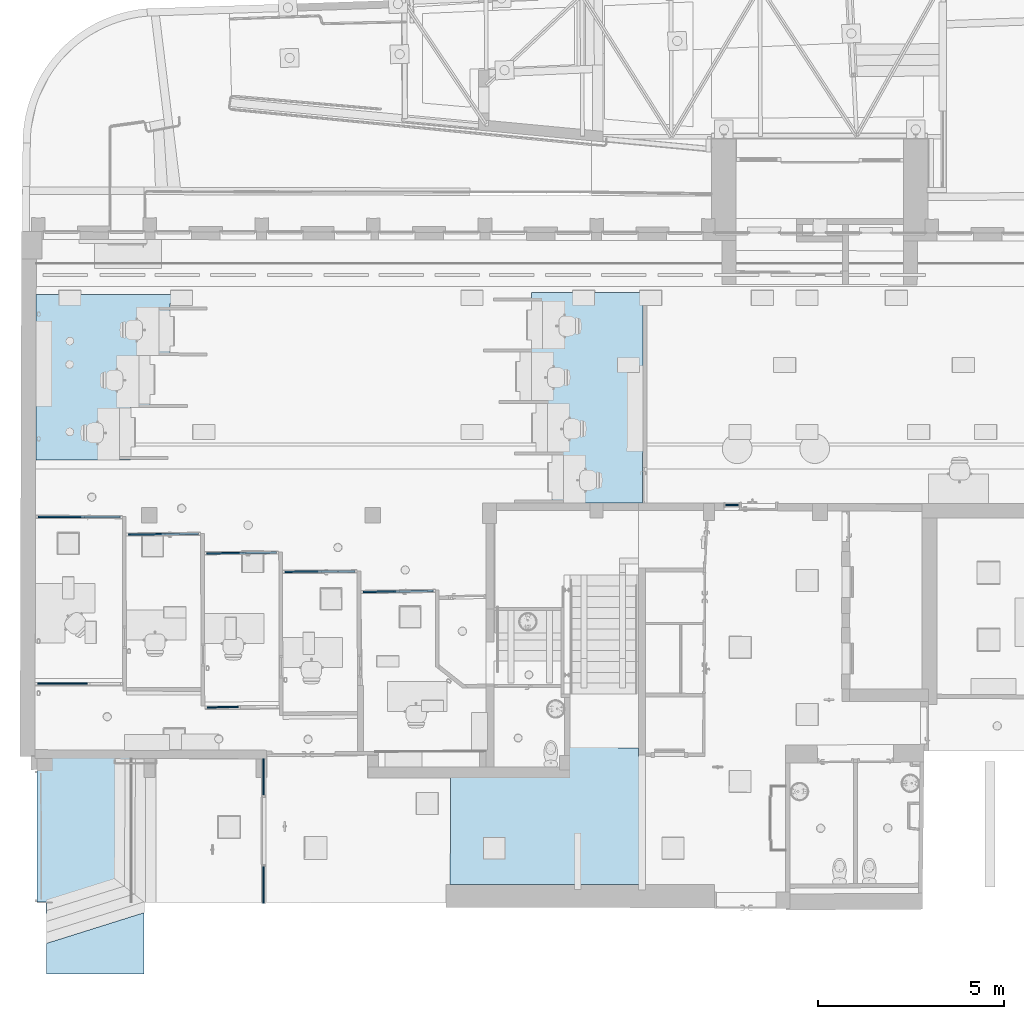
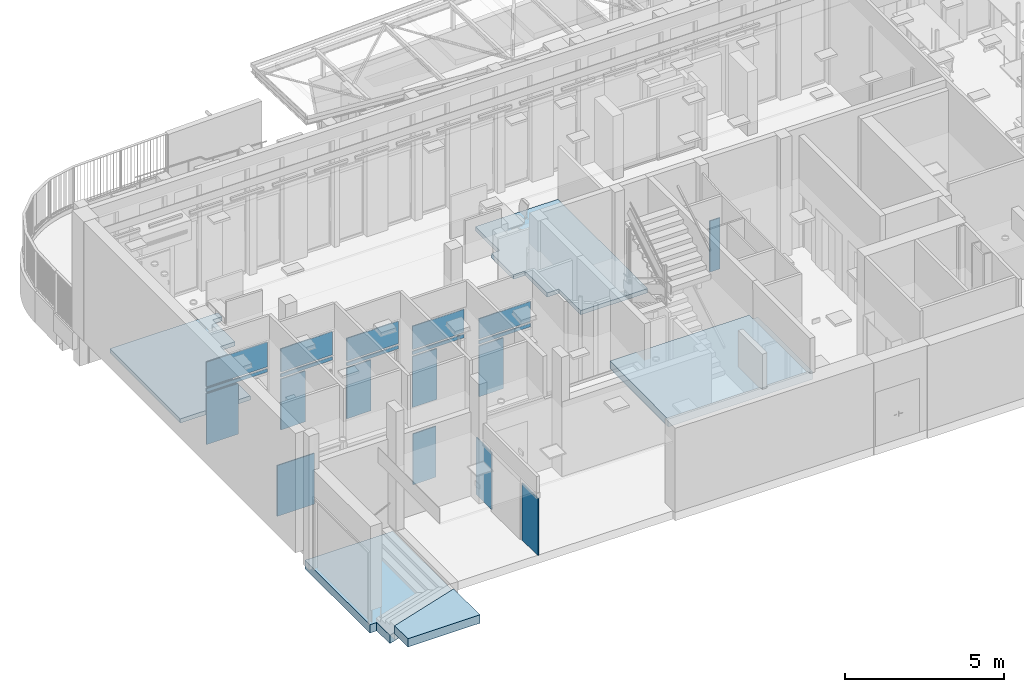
# One storey, part 21 of 128: 20 plates, 5 slabs, 9 elements without a shape of their own.
"""IFC2X3 building model written with IfcOpenShell, lengths in metres."""

from ifc_helpers import new_model, entity, si_unit, converted_unit, derived_unit, direction, frame, frame_2d, origin, origin_2d_with_axis, place, context, subcontext, project, spatial, polyline, rectangle, outline, extrude, source, transform, mapped, material, layer, layer_set, layer_usage, type_object, type_shapes, element, aggregate, save


model = new_model("IFC2X3")

# Units and contexts
model_context = context("Model", 3, precision=1e-05, world=origin(), true_north=direction((6.123031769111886e-17, 1.0)))
body_context = subcontext(model_context, "Body", "Model", "MODEL_VIEW")
ifc_project = project(units=[si_unit("LENGTHUNIT", "METRE"), si_unit("AREAUNIT", "SQUARE_METRE"), converted_unit("PLANEANGLEUNIT", "DEGREE", entity("IfcPlaneAngleMeasure", 0.017453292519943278), si_unit("PLANEANGLEUNIT", "RADIAN"), dimensions=[0, 0, 0, 0, 0, 0, 0]), derived_unit("THERMALTRANSMITTANCEUNIT", [(si_unit("MASSUNIT", "GRAM", prefix="KILO"), 1), (si_unit("THERMODYNAMICTEMPERATUREUNIT", "KELVIN"), -1), (si_unit("TIMEUNIT", "SECOND"), -3)])], contexts=[model_context])

# Site, building, storey
site_placement = place(None, origin())
site = spatial("IfcSite", under=ifc_project, at=site_placement, Name="Default", CompositionType="ELEMENT")
building_placement = place(site_placement, origin())
building = spatial("IfcBuilding", under=site, at=building_placement, CompositionType="ELEMENT")
storey_placement = place(building_placement, origin())
storey = spatial("IfcBuildingStorey", under=building, at=storey_placement, Name="00_RDC CAF", CompositionType="ELEMENT", Elevation=2.4982504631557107e-13)

# Slabs
ifc_material_1 = material(Name="STR - Beton")
ifc_layer_1 = layer(ifc_material_1, 0.32)
ifc_layer_set_1 = layer_set([ifc_layer_1], Name="Sol:S_Beton_Bac acier_200+120 mm Variable")
ifc_layer_usage_1 = layer_usage(ifc_layer_set_1, "AXIS3", "POSITIVE", 0.0)
slab_type_1 = type_object("IfcSlabType", Name="Sol:S_Beton_Bac acier_200+120 mm Variable", PredefinedType="FLOOR", material=ifc_layer_set_1)
slab_1_placement = place(storey_placement, origin())
element("IfcSlab", 1, at=slab_1_placement, inside=storey, type_object=slab_type_1, material=ifc_layer_usage_1, Name="Sol:S_Beton_Bac acier_200+120 mm Variable", ObjectType="Sol:S_Beton_Bac acier_200+120 mm Variable", PredefinedType="FLOOR", context=body_context, shape_type="SweptSolid", body=[
    extrude(outline(polyline([(-3.032867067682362, -1.80716487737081), (1.059584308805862, -1.80716487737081), (1.0586371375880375, -1.428793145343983), (1.862921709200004, 1.1300603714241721), (1.046402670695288, 1.140060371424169), (1.0455290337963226, 1.3831467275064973), (-3.0402077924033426, 1.3898554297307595), (-3.032867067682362, -1.80716487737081)])), frame((8.102068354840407, 127.21334363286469, -0.55), z_axis=(0.0, 0.0, -1.0), x_axis=(0.0, -1.0, 0.0)), (0.0, 0.0, 1.0), 0.32),
])
ifc_layer_usage_2 = layer_usage(ifc_layer_set_1, "AXIS3", "POSITIVE", 0.0)
slab_2_placement = place(storey_placement, origin())
element("IfcSlab", 2, at=slab_2_placement, inside=storey, type_object=slab_type_1, material=ifc_layer_usage_2, Name="Sol:S_Beton_Bac acier_200+120 mm Variable", ObjectType="Sol:S_Beton_Bac acier_200+120 mm Variable", PredefinedType="FLOOR", context=body_context, shape_type="SweptSolid", body=[
    extrude(outline(polyline([(-0.6180522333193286, -1.3094472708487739), (0.20667750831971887, -1.3094472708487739), (1.0294269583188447, 1.3081527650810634), (-0.6180522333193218, 1.3107417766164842), (-0.6180522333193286, -1.3094472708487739)])), frame((8.281455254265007, 124.84499319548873, 0.0), z_axis=(0.0, 0.0, -1.0), x_axis=(0.0, 1.0, 0.0)), (0.0, 0.0, 1.0), 0.32),
])

# Curtain wall, plate
curtain_wall_type_1 = type_object("IfcCurtainWallType", Name="Mur-rideau:M.Ri_Vitre_40mm_Montant_70X90mm", PredefinedType="NOTDEFINED")
curtain_wall_1_placement = place(storey_placement, origin())
curtain_wall_1 = element("IfcCurtainWall", 3, at=curtain_wall_1_placement, inside=storey, type_object=curtain_wall_type_1, Name="Mur-rideau:M.Ri_Vitre_40mm_Montant_70X90mm", ObjectType="Mur-rideau:M.Ri_Vitre_40mm_Montant_70X90mm")
ifc_material_2 = material(Name="ARC - M.In - Verre")
plate_type_1 = type_object("IfcPlateType", Name="Panneau système:M.Ri.P_Int_Vitre_40mm", PredefinedType="CURTAIN_PANEL", material=ifc_material_2)
shared_shape_1 = source(origin(), body_context, "Body", "SweptSolid", [
    extrude(rectangle(XDim=0.04, YDim=0.8907223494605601, at=frame_2d((0.0, -2.7755575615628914e-17), x_axis=(1.0, 0.0))), frame((0.0, 0.0, 0.0), z_axis=(0.0, 0.0, 1.0), x_axis=(0.0, 1.0, 0.0)), (0.0, 0.0, 1.0), 1.9499999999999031),
])
type_shapes(plate_type_1, [shared_shape_1])
plate_1_placement = place(curtain_wall_1_placement, frame((9.615066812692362, 136.03841718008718, 0.08999999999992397), z_axis=(0.0, 0.0, 1.0), x_axis=(0.9999489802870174, 0.010101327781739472, 0.0)))
plate_1 = element("IfcPlate", 4, at=plate_1_placement, type_object=plate_type_1, material=ifc_material_2, Name="Panneau système:M.Ri.P_Int_Vitre_40mm", ObjectType="Panneau système:M.Ri.P_Int_Vitre_40mm", context=body_context, shape_type="MappedRepresentation", body=[
    mapped(shared_shape_1, transform((0.0, 0.0, 0.0), scale=1.0)),
])

curtain_wall_2_placement = place(storey_placement, origin())
curtain_wall_2 = element("IfcCurtainWall", 5, at=curtain_wall_2_placement, inside=storey, type_object=curtain_wall_type_1, Name="Mur-rideau:M.Ri_Vitre_40mm_Montant_70X90mm", ObjectType="Mur-rideau:M.Ri_Vitre_40mm_Montant_70X90mm")
plate_2_placement = place(curtain_wall_2_placement, frame((13.817846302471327, 135.03508446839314, 0.08999999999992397), z_axis=(0.0, 0.0, 1.0), x_axis=(0.9999841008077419, 0.005638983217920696, 0.0)))
plate_2 = element("IfcPlate", 6, at=plate_2_placement, type_object=plate_type_1, material=ifc_material_2, Name="Panneau système:M.Ri.P_Int_Vitre_40mm", ObjectType="Panneau système:M.Ri.P_Int_Vitre_40mm", context=body_context, shape_type="MappedRepresentation", body=[
    mapped(shared_shape_1, transform((0.0, 0.0, 0.0), scale=1.0)),
])

# Plate
ifc_material_3 = material(Name="ARC - M.In - Blanc")
plate_type_2 = type_object("IfcPlateType", Name="Panneau système:M.Ri.P_Int_Plein_40mm", PredefinedType="CURTAIN_PANEL", material=ifc_material_3)
shared_shape_2 = source(origin(), body_context, "Body", "SweptSolid", [
    extrude(rectangle(XDim=0.13000000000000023, YDim=1.881540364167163, at=frame_2d((0.0, 0.0016826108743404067), x_axis=(1.0, 0.0))), frame((-0.001682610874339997, -0.02, 0.06499999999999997), z_axis=(0.0, 1.0, 0.0), x_axis=(0.0, 0.0, 1.0)), (0.0, 0.0, 1.0), 0.04),
])
type_shapes(plate_type_2, [shared_shape_2])
plate_3_placement = place(curtain_wall_1_placement, frame((10.1104505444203, 136.04342146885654, 2.109999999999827), z_axis=(0.0, 0.0, 1.0), x_axis=(0.9999489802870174, 0.010101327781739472, 0.0)))
plate_3 = element("IfcPlate", 7, at=plate_3_placement, type_object=plate_type_2, material=ifc_material_3, Name="Panneau système:M.Ri.P_Int_Plein_40mm", ObjectType="Panneau système:M.Ri.P_Int_Plein_40mm", context=body_context, shape_type="MappedRepresentation", body=[
    mapped(shared_shape_2, transform((0.0, 0.0, 0.0), scale=1.0)),
])

plate_type_3 = type_object("IfcPlateType", Name="Panneau système:M.Ri.P_Int_Vitre_40mm", PredefinedType="CURTAIN_PANEL", material=ifc_material_2)
shared_shape_3 = source(origin(), body_context, "Body", "SweptSolid", [
    extrude(rectangle(XDim=0.894999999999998, YDim=1.881540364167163, at=frame_2d((8.326672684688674e-17, 0.0016826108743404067), x_axis=(1.0, 0.0))), frame((-0.001682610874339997, -0.02, 0.44749999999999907), z_axis=(0.0, 1.0, 0.0), x_axis=(0.0, 0.0, 1.0)), (0.0, 0.0, 1.0), 0.04),
])
type_shapes(plate_type_3, [shared_shape_3])
plate_4_placement = place(curtain_wall_1_placement, frame((10.1104505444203, 136.04342146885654, 2.3099999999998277), z_axis=(0.0, 0.0, 1.0), x_axis=(0.9999489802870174, 0.010101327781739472, 0.0)))
plate_4 = element("IfcPlate", 8, at=plate_4_placement, type_object=plate_type_3, material=ifc_material_2, Name="Panneau système:M.Ri.P_Int_Vitre_40mm", ObjectType="Panneau système:M.Ri.P_Int_Vitre_40mm", context=body_context, shape_type="MappedRepresentation", body=[
    mapped(shared_shape_3, transform((0.0, 0.0, 0.0), scale=1.0)),
])

aggregate(curtain_wall_1, [plate_1, plate_3, plate_4])

# Curtain wall, plates
curtain_wall_3_placement = place(storey_placement, origin())
curtain_wall_3 = element("IfcCurtainWall", 9, at=curtain_wall_3_placement, inside=storey, type_object=curtain_wall_type_1, Name="Mur-rideau:M.Ri_Vitre_40mm_Montant_70X90mm", ObjectType="Mur-rideau:M.Ri_Vitre_40mm_Montant_70X90mm")
plate_type_4 = type_object("IfcPlateType", Name="Panneau système:M.Ri.P_Int_Vitre_40mm", PredefinedType="CURTAIN_PANEL", material=ifc_material_2)
shared_shape_4 = source(origin(), body_context, "Body", "SweptSolid", [
    extrude(rectangle(XDim=0.04, YDim=0.8866441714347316, at=frame_2d((0.0, -2.7755575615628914e-17), x_axis=(1.0, 0.0))), frame((0.0, 0.0, 0.0), z_axis=(0.0, 0.0, 1.0), x_axis=(0.0, 1.0, 0.0)), (0.0, 0.0, 1.0), 1.9499999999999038),
])
type_shapes(plate_type_4, [shared_shape_4])
plate_5_placement = place(curtain_wall_3_placement, frame((11.71590728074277, 135.5313912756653, 0.08999999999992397), z_axis=(0.0, 0.0, 1.0), x_axis=(0.9999489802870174, 0.010101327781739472, 0.0)))
plate_5 = element("IfcPlate", 10, at=plate_5_placement, type_object=plate_type_4, material=ifc_material_2, Name="Panneau système:M.Ri.P_Int_Vitre_40mm", ObjectType="Panneau système:M.Ri.P_Int_Vitre_40mm", context=body_context, shape_type="MappedRepresentation", body=[
    mapped(shared_shape_4, transform((0.0, 0.0, 0.0), scale=1.0)),
])
plate_type_5 = type_object("IfcPlateType", Name="Panneau système:M.Ri.P_Int_Plein_40mm", PredefinedType="CURTAIN_PANEL", material=ifc_material_3)
shared_shape_5 = source(origin(), body_context, "Body", "SweptSolid", [
    extrude(rectangle(XDim=0.12999999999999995, YDim=1.877456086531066, at=frame_2d((-7.632783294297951e-17, 0.002361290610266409), x_axis=(1.0, 0.0))), frame((-0.0023612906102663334, -0.020000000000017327, 0.06500000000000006), z_axis=(0.0, 1.0, 0.0), x_axis=(0.0, 0.0, 1.0)), (0.0, 0.0, 1.0), 0.04),
])
type_shapes(plate_type_5, [shared_shape_5])
plate_6_placement = place(curtain_wall_3_placement, frame((12.211287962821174, 135.53639553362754, 2.1099999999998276), z_axis=(0.0, 0.0, 1.0), x_axis=(0.9999489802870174, 0.010101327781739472, 0.0)))
plate_6 = element("IfcPlate", 11, at=plate_6_placement, type_object=plate_type_5, material=ifc_material_3, Name="Panneau système:M.Ri.P_Int_Plein_40mm", ObjectType="Panneau système:M.Ri.P_Int_Plein_40mm", context=body_context, shape_type="MappedRepresentation", body=[
    mapped(shared_shape_5, transform((0.0, 0.0, 0.0), scale=1.0)),
])
plate_type_6 = type_object("IfcPlateType", Name="Panneau système:M.Ri.P_Int_Vitre_40mm", PredefinedType="CURTAIN_PANEL", material=ifc_material_2)
shared_shape_6 = source(origin(), body_context, "Body", "SweptSolid", [
    extrude(rectangle(XDim=0.8649999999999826, YDim=1.877456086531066, at=frame_2d((5.551115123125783e-17, 0.002361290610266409), x_axis=(1.0, 0.0))), frame((-0.0023612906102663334, -0.020000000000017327, 0.43249999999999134), z_axis=(0.0, 1.0, 0.0), x_axis=(0.0, 0.0, 1.0)), (0.0, 0.0, 1.0), 0.04),
])
type_shapes(plate_type_6, [shared_shape_6])
plate_7_placement = place(curtain_wall_3_placement, frame((12.211287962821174, 135.53639553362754, 2.3099999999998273), z_axis=(0.0, 0.0, 1.0), x_axis=(0.9999489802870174, 0.010101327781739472, 0.0)))
plate_7 = element("IfcPlate", 12, at=plate_7_placement, type_object=plate_type_6, material=ifc_material_2, Name="Panneau système:M.Ri.P_Int_Vitre_40mm", ObjectType="Panneau système:M.Ri.P_Int_Vitre_40mm", context=body_context, shape_type="MappedRepresentation", body=[
    mapped(shared_shape_6, transform((0.0, 0.0, 0.0), scale=1.0)),
])
aggregate(curtain_wall_3, [plate_5, plate_6, plate_7])

curtain_wall_4_placement = place(storey_placement, origin())
curtain_wall_4 = element("IfcCurtainWall", 13, at=curtain_wall_4_placement, inside=storey, type_object=curtain_wall_type_1, Name="Mur-rideau:M.Ri_Vitre_40mm_Montant_70X90mm", ObjectType="Mur-rideau:M.Ri_Vitre_40mm_Montant_70X90mm")
plate_type_7 = type_object("IfcPlateType", Name="Panneau système:M.Ri.P_Int_Vitre_40mm", PredefinedType="CURTAIN_PANEL", material=ifc_material_2)
shared_shape_7 = source(origin(), body_context, "Body", "SweptSolid", [
    extrude(rectangle(XDim=0.04, YDim=1.1491819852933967, at=frame_2d((0.0, 1.1102230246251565e-16), x_axis=(1.0, 0.0))), frame((0.0, 0.0, 0.0), z_axis=(0.0, 0.0, 1.0), x_axis=(0.0, 1.0, 0.0)), (0.0, 0.0, 1.0), 1.9499999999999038),
])
type_shapes(plate_type_7, [shared_shape_7])
plate_8_placement = place(curtain_wall_4_placement, frame((7.324774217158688, 136.50737839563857, 0.08999999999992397)))
plate_8 = element("IfcPlate", 14, at=plate_8_placement, type_object=plate_type_7, material=ifc_material_2, Name="Panneau système:M.Ri.P_Int_Vitre_40mm", ObjectType="Panneau système:M.Ri.P_Int_Vitre_40mm", context=body_context, shape_type="MappedRepresentation", body=[
    mapped(shared_shape_7, transform((0.0, 0.0, 0.0), scale=1.0)),
])
plate_type_8 = type_object("IfcPlateType", Name="Panneau système:M.Ri.P_Int_Plein_40mm", PredefinedType="CURTAIN_PANEL", material=ifc_material_3)
shared_shape_8 = source(origin(), body_context, "Body", "SweptSolid", [
    extrude(rectangle(XDim=0.12999999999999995, YDim=2.1982767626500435, at=frame_2d((0.0, -0.03168120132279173), x_axis=(1.0, 0.0))), frame((0.031681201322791, -0.02, 0.06500000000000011), z_axis=(0.0, 1.0, 0.0), x_axis=(0.0, 0.0, 1.0)), (0.0, 0.0, 1.0), 0.04),
])
type_shapes(plate_type_8, [shared_shape_8])
plate_9_placement = place(curtain_wall_4_placement, frame((7.849318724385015, 136.50563974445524, 2.1099999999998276)))
plate_9 = element("IfcPlate", 15, at=plate_9_placement, type_object=plate_type_8, material=ifc_material_3, Name="Panneau système:M.Ri.P_Int_Plein_40mm", ObjectType="Panneau système:M.Ri.P_Int_Plein_40mm", context=body_context, shape_type="MappedRepresentation", body=[
    mapped(shared_shape_8, transform((0.0, 0.0, 0.0), scale=1.0)),
])
plate_type_9 = type_object("IfcPlateType", Name="Panneau système:M.Ri.P_Int_Vitre_40mm", PredefinedType="CURTAIN_PANEL", material=ifc_material_2)
shared_shape_9 = source(origin(), body_context, "Body", "SweptSolid", [
    extrude(rectangle(XDim=0.9500000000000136, YDim=2.1982767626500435, at=frame_2d((5.551115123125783e-17, -0.03168120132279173), x_axis=(1.0, 0.0))), frame((0.031681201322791, -0.02, 0.47500000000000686), z_axis=(0.0, 1.0, 0.0), x_axis=(0.0, 0.0, 1.0)), (0.0, 0.0, 1.0), 0.04),
])
type_shapes(plate_type_9, [shared_shape_9])
plate_10_placement = place(curtain_wall_4_placement, frame((7.849318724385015, 136.50563974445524, 2.3099999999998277)))
plate_10 = element("IfcPlate", 16, at=plate_10_placement, type_object=plate_type_9, material=ifc_material_2, Name="Panneau système:M.Ri.P_Int_Vitre_40mm", ObjectType="Panneau système:M.Ri.P_Int_Vitre_40mm", context=body_context, shape_type="MappedRepresentation", body=[
    mapped(shared_shape_9, transform((0.0, 0.0, 0.0), scale=1.0)),
])
aggregate(curtain_wall_4, [plate_8, plate_9, plate_10])

# Plate
plate_type_10 = type_object("IfcPlateType", Name="Panneau système:M.Ri.P_Int_Plein_40mm", PredefinedType="CURTAIN_PANEL", material=ifc_material_3)
shared_shape_10 = source(origin(), body_context, "Body", "SweptSolid", [
    extrude(rectangle(XDim=0.13000000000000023, YDim=1.8813017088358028, at=frame_2d((0.0, 0.0016428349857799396), x_axis=(1.0, 0.0))), frame((-0.0016428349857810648, -0.02, 0.06499999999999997), z_axis=(0.0, 1.0, 0.0), x_axis=(0.0, 0.0, 1.0)), (0.0, 0.0, 1.0), 0.04),
])
type_shapes(plate_type_10, [shared_shape_10])
plate_11_placement = place(curtain_wall_2_placement, frame((14.313128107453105, 135.03787739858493, 2.109999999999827), z_axis=(0.0, 0.0, 1.0), x_axis=(0.9999841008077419, 0.005638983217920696, 0.0)))
plate_11 = element("IfcPlate", 17, at=plate_11_placement, type_object=plate_type_10, material=ifc_material_3, Name="Panneau système:M.Ri.P_Int_Plein_40mm", ObjectType="Panneau système:M.Ri.P_Int_Plein_40mm", context=body_context, shape_type="MappedRepresentation", body=[
    mapped(shared_shape_10, transform((0.0, 0.0, 0.0), scale=1.0)),
])

plate_type_11 = type_object("IfcPlateType", Name="Panneau système:M.Ri.P_Int_Vitre_40mm", PredefinedType="CURTAIN_PANEL", material=ifc_material_2)
shared_shape_11 = source(origin(), body_context, "Body", "SweptSolid", [
    extrude(rectangle(XDim=0.894999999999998, YDim=1.8813017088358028, at=frame_2d((8.326672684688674e-17, 0.0016428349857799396), x_axis=(1.0, 0.0))), frame((-0.0016428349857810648, -0.02, 0.44749999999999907), z_axis=(0.0, 1.0, 0.0), x_axis=(0.0, 0.0, 1.0)), (0.0, 0.0, 1.0), 0.04),
])
type_shapes(plate_type_11, [shared_shape_11])
plate_12_placement = place(curtain_wall_2_placement, frame((14.313128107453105, 135.03787739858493, 2.3099999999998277), z_axis=(0.0, 0.0, 1.0), x_axis=(0.9999841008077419, 0.005638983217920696, 0.0)))
plate_12 = element("IfcPlate", 18, at=plate_12_placement, type_object=plate_type_11, material=ifc_material_2, Name="Panneau système:M.Ri.P_Int_Vitre_40mm", ObjectType="Panneau système:M.Ri.P_Int_Vitre_40mm", context=body_context, shape_type="MappedRepresentation", body=[
    mapped(shared_shape_11, transform((0.0, 0.0, 0.0), scale=1.0)),
])

aggregate(curtain_wall_2, [plate_2, plate_11, plate_12])

# Curtain wall, plates
curtain_wall_5_placement = place(storey_placement, origin())
curtain_wall_5 = element("IfcCurtainWall", 19, at=curtain_wall_5_placement, inside=storey, type_object=curtain_wall_type_1, Name="Mur-rideau:M.Ri_Vitre_40mm_Montant_70X90mm", ObjectType="Mur-rideau:M.Ri_Vitre_40mm_Montant_70X90mm")
plate_type_12 = type_object("IfcPlateType", Name="Panneau système:M.Ri.P_Int_Vitre_40mm", PredefinedType="CURTAIN_PANEL", material=ifc_material_2)
shared_shape_12 = source(origin(), body_context, "Body", "SweptSolid", [
    extrude(rectangle(XDim=0.04, YDim=0.8884050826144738, at=frame_2d((0.0, -2.7755575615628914e-17), x_axis=(1.0, 0.0))), frame((0.0, 0.0, 0.0), z_axis=(0.0, 0.0, 1.0), x_axis=(0.0, 1.0, 0.0)), (0.0, 0.0, 1.0), 1.9499999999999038),
])
type_shapes(plate_type_12, [shared_shape_12])
plate_13_placement = place(curtain_wall_5_placement, frame((15.919359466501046, 134.49780115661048, 0.08999999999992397), z_axis=(0.0, 0.0, 1.0), x_axis=(0.9998908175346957, 0.014776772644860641, 0.0)))
plate_13 = element("IfcPlate", 20, at=plate_13_placement, type_object=plate_type_12, material=ifc_material_2, Name="Panneau système:M.Ri.P_Int_Vitre_40mm", ObjectType="Panneau système:M.Ri.P_Int_Vitre_40mm", context=body_context, shape_type="MappedRepresentation", body=[
    mapped(shared_shape_12, transform((0.0, 0.0, 0.0), scale=1.0)),
])
plate_type_13 = type_object("IfcPlateType", Name="Panneau système:M.Ri.P_Int_Plein_40mm", PredefinedType="CURTAIN_PANEL", material=ifc_material_3)
shared_shape_13 = source(origin(), body_context, "Body", "SweptSolid", [
    extrude(rectangle(XDim=0.1299999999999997, YDim=1.8839899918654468, at=frame_2d((0.0, 0.0028633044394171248), x_axis=(1.0, 0.0))), frame((-0.0028633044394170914, -0.02, 0.06499999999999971), z_axis=(0.0, 1.0, 0.0), x_axis=(0.0, 0.0, 1.0)), (0.0, 0.0, 1.0), 0.04),
])
type_shapes(plate_type_13, [shared_shape_13])
plate_14_placement = place(curtain_wall_5_placement, frame((16.417097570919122, 134.5051569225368, 2.109999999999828), z_axis=(0.0, 0.0, 1.0), x_axis=(0.9998908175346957, 0.014776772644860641, 0.0)))
plate_14 = element("IfcPlate", 21, at=plate_14_placement, type_object=plate_type_13, material=ifc_material_3, Name="Panneau système:M.Ri.P_Int_Plein_40mm", ObjectType="Panneau système:M.Ri.P_Int_Plein_40mm", context=body_context, shape_type="MappedRepresentation", body=[
    mapped(shared_shape_13, transform((0.0, 0.0, 0.0), scale=1.0)),
])
plate_type_14 = type_object("IfcPlateType", Name="Panneau système:M.Ri.P_Int_Vitre_40mm", PredefinedType="CURTAIN_PANEL", material=ifc_material_2)
shared_shape_14 = source(origin(), body_context, "Body", "SweptSolid", [
    extrude(rectangle(XDim=0.7749999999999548, YDim=1.8839899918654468, at=frame_2d((5.551115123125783e-17, 0.0028633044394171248), x_axis=(1.0, 0.0))), frame((-0.0028633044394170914, -0.02, 0.3874999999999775), z_axis=(0.0, 1.0, 0.0), x_axis=(0.0, 0.0, 1.0)), (0.0, 0.0, 1.0), 0.04),
])
type_shapes(plate_type_14, [shared_shape_14])
plate_15_placement = place(curtain_wall_5_placement, frame((16.417097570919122, 134.5051569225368, 2.3099999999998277), z_axis=(0.0, 0.0, 1.0), x_axis=(0.9998908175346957, 0.014776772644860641, 0.0)))
plate_15 = element("IfcPlate", 22, at=plate_15_placement, type_object=plate_type_14, material=ifc_material_2, Name="Panneau système:M.Ri.P_Int_Vitre_40mm", ObjectType="Panneau système:M.Ri.P_Int_Vitre_40mm", context=body_context, shape_type="MappedRepresentation", body=[
    mapped(shared_shape_14, transform((0.0, 0.0, 0.0), scale=1.0)),
])
aggregate(curtain_wall_5, [plate_13, plate_14, plate_15])

# Curtain wall, plate
curtain_wall_type_2 = type_object("IfcCurtainWallType", Name="Mur-rideau:M.Ri_Vitre_40mm_Montant_50X50mm_Avec_Décalage", PredefinedType="NOTDEFINED")
curtain_wall_6_placement = place(storey_placement, origin())
curtain_wall_6 = element("IfcCurtainWall", 23, at=curtain_wall_6_placement, inside=storey, type_object=curtain_wall_type_2, Name="Mur-rideau:M.Ri_Vitre_40mm_Montant_50X50mm_Avec_Décalage", ObjectType="Mur-rideau:M.Ri_Vitre_40mm_Montant_50X50mm_Avec_Décalage")
plate_type_15 = type_object("IfcPlateType", Name="Panneau système:M.Ri.P_Int_Vitre_40mm_Avec_Décalage", PredefinedType="CURTAIN_PANEL", material=ifc_material_2)
shared_shape_15 = source(origin(), body_context, "Body", "SweptSolid", [
    extrude(rectangle(XDim=0.039999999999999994, YDim=1.3478138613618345, at=frame_2d((8.673617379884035e-18, 0.0), x_axis=(1.0, 0.0))), frame((0.0, -0.085, 0.0), z_axis=(0.0, 0.0, 1.0), x_axis=(0.0, 1.0, 0.0)), (0.0, 0.0, 1.0), 1.9524999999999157),
])
type_shapes(plate_type_15, [shared_shape_15])
plate_16_placement = place(curtain_wall_6_placement, frame((7.4008586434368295, 132.11264719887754, 0.059999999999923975)))
plate_16 = element("IfcPlate", 24, at=plate_16_placement, type_object=plate_type_15, material=ifc_material_2, Name="Panneau système:M.Ri.P_Int_Vitre_40mm_Avec_Décalage", ObjectType="Panneau système:M.Ri.P_Int_Vitre_40mm_Avec_Décalage", context=body_context, shape_type="MappedRepresentation", body=[
    mapped(shared_shape_15, transform((0.0, 0.0, 0.0), scale=1.0)),
])
aggregate(curtain_wall_6, [plate_16])

curtain_wall_7_placement = place(storey_placement, origin())
curtain_wall_7 = element("IfcCurtainWall", 25, at=curtain_wall_7_placement, inside=storey, type_object=curtain_wall_type_2, Name="Mur-rideau:M.Ri_Vitre_40mm_Montant_50X50mm_Avec_Décalage", ObjectType="Mur-rideau:M.Ri_Vitre_40mm_Montant_50X50mm_Avec_Décalage")
plate_type_16 = type_object("IfcPlateType", Name="Panneau système:M.Ri.P_Int_Vitre_40mm_Avec_Décalage", PredefinedType="CURTAIN_PANEL", material=ifc_material_2)
shared_shape_16 = source(origin(), body_context, "Body", "SweptSolid", [
    extrude(rectangle(XDim=0.039999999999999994, YDim=0.8400011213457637, at=frame_2d((8.673617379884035e-18, -4.440892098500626e-16), x_axis=(1.0, 0.0))), frame((0.0, -0.08499999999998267, 0.0), z_axis=(0.0, 0.0, 1.0), x_axis=(0.0, 1.0, 0.0)), (0.0, 0.0, 1.0), 1.9524999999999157),
])
type_shapes(plate_type_16, [shared_shape_16])
plate_17_placement = place(curtain_wall_7_placement, frame((11.703656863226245, 131.48087896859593, 0.059999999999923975), z_axis=(0.0, 0.0, 1.0), x_axis=(0.9999522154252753, 0.009775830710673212, 0.0)))
plate_17 = element("IfcPlate", 26, at=plate_17_placement, type_object=plate_type_16, material=ifc_material_2, Name="Panneau système:M.Ri.P_Int_Vitre_40mm_Avec_Décalage", ObjectType="Panneau système:M.Ri.P_Int_Vitre_40mm_Avec_Décalage", context=body_context, shape_type="MappedRepresentation", body=[
    mapped(shared_shape_16, transform((0.0, 0.0, 0.0), scale=1.0)),
])
aggregate(curtain_wall_7, [plate_17])

# Curtain wall, plates
curtain_wall_type_3 = type_object("IfcCurtainWallType", PredefinedType="NOTDEFINED")
curtain_wall_8_placement = place(storey_placement, origin())
curtain_wall_8 = element("IfcCurtainWall", 27, at=curtain_wall_8_placement, inside=storey, type_object=curtain_wall_type_3)
plate_type_17 = type_object("IfcPlateType", Name="Panneau système:M.Ri.P_Int_Vitre_40mm", PredefinedType="CURTAIN_PANEL", material=ifc_material_2)
shared_shape_17 = source(origin(), body_context, "Body", "SweptSolid", [
    extrude(rectangle(XDim=0.04, YDim=0.9774999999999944, at=origin_2d_with_axis()), frame((0.0, 0.0, 0.0), z_axis=(0.0, 0.0, 1.0), x_axis=(0.0, 1.0, 0.0)), (0.0, 0.0, 1.0), 2.19),
])
type_shapes(plate_type_17, [shared_shape_17])
plate_18_placement = place(curtain_wall_8_placement, frame((12.806391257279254, 129.51665691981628, 0.0), z_axis=(0.0, 0.0, 1.0), x_axis=(0.0, -1.0, 0.0)))
plate_18 = element("IfcPlate", 28, at=plate_18_placement, type_object=plate_type_17, material=ifc_material_2, Name="Panneau système:M.Ri.P_Int_Vitre_40mm", ObjectType="Panneau système:M.Ri.P_Int_Vitre_40mm", context=body_context, shape_type="MappedRepresentation", body=[
    mapped(shared_shape_17, transform((0.0, 0.0, 0.0), scale=1.0)),
])
plate_type_18 = type_object("IfcPlateType", Name="Panneau système:M.Ri.P_Int_Vitre_40mm", PredefinedType="CURTAIN_PANEL", material=ifc_material_2)
shared_shape_18 = source(origin(), body_context, "Body", "SweptSolid", [
    extrude(rectangle(XDim=0.04, YDim=0.9975000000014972, at=origin_2d_with_axis()), frame((0.0, 0.0, 0.0), z_axis=(0.0, 0.0, 1.0), x_axis=(0.0, 1.0, 0.0)), (0.0, 0.0, 1.0), 2.19),
])
type_shapes(plate_type_18, [shared_shape_18])
plate_19_placement = place(curtain_wall_8_placement, frame((12.806391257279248, 126.62525691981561, 0.0), z_axis=(0.0, 0.0, 1.0), x_axis=(0.0, -1.0, 0.0)))
plate_19 = element("IfcPlate", 29, at=plate_19_placement, type_object=plate_type_18, material=ifc_material_2, Name="Panneau système:M.Ri.P_Int_Vitre_40mm", ObjectType="Panneau système:M.Ri.P_Int_Vitre_40mm", context=body_context, shape_type="MappedRepresentation", body=[
    mapped(shared_shape_18, transform((0.0, 0.0, 0.0), scale=1.0)),
])
aggregate(curtain_wall_8, [plate_18, plate_19])

# Curtain wall, plate
curtain_wall_type_4 = type_object("IfcCurtainWallType", Name="Mur-rideau:M.Ri._Vitre_40mm_Montant_115mm", PredefinedType="NOTDEFINED")
curtain_wall_9_placement = place(storey_placement, origin())
curtain_wall_9 = element("IfcCurtainWall", 30, at=curtain_wall_9_placement, inside=storey, type_object=curtain_wall_type_4, Name="Mur-rideau:M.Ri._Vitre_40mm_Montant_115mm", ObjectType="Mur-rideau:M.Ri._Vitre_40mm_Montant_115mm")
plate_type_19 = type_object("IfcPlateType", Name="Panneau système:M.Ri.P_Int_Vitre_40mm", PredefinedType="CURTAIN_PANEL", material=ifc_material_2)
shared_shape_19 = source(origin(), body_context, "Body", "SweptSolid", [
    extrude(rectangle(XDim=0.04, YDim=0.36260903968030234, at=frame_2d((0.0, -6.245004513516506e-16), x_axis=(1.0, 0.0))), frame((0.0, 0.0, 0.0), z_axis=(0.0, 0.0, 1.0), x_axis=(0.0, 1.0, 0.0)), (0.0, 0.0, 1.0), 1.965),
])
type_shapes(plate_type_19, [shared_shape_19])
plate_20_placement = place(curtain_wall_9_placement, frame((25.38110314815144, 136.82627246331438, 0.05499999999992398)))
plate_20 = element("IfcPlate", 31, at=plate_20_placement, type_object=plate_type_19, material=ifc_material_2, Name="Panneau système:M.Ri.P_Int_Vitre_40mm", ObjectType="Panneau système:M.Ri.P_Int_Vitre_40mm", context=body_context, shape_type="MappedRepresentation", body=[
    mapped(shared_shape_19, transform((0.0, 0.0, 0.0), scale=1.0)),
])
aggregate(curtain_wall_9, [plate_20])

# Slabs
ifc_material_4 = material(Name="ARC - Estrade")
ifc_layer_2 = layer(ifc_material_4, 0.16)
ifc_layer_set_2 = layer_set([ifc_layer_2], Name="Sol:A_Plancher_Estrade_16mm")
ifc_layer_usage_3 = layer_usage(ifc_layer_set_2, "AXIS3", "POSITIVE", 0.0)
slab_type_2 = type_object("IfcSlabType", Name="Sol:A_Plancher_Estrade_16mm", PredefinedType="FLOOR", material=ifc_layer_set_2)
slab_3_placement = place(storey_placement, origin())
element("IfcSlab", 32, at=slab_3_placement, inside=storey, type_object=slab_type_2, material=ifc_layer_usage_3, Name="Sol:A_Plancher_Estrade_16mm", ObjectType="Sol:A_Plancher_Estrade_16mm", PredefinedType="FLOOR", context=body_context, shape_type="SweptSolid", body=[
    extrude(outline(polyline([(0.090510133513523, -2.574065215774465), (2.6344087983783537, -2.574065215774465), (2.621510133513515, 1.8759347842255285), (-1.3094898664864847, 1.8759347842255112), (-1.3094898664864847, 1.625934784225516), (-0.969489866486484, 1.625934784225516), (-0.9694898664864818, 0.2362608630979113), (-0.43948986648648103, 0.2362608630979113), (-0.43948986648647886, -1.1640652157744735), (0.09051013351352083, -1.1640652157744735), (0.090510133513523, -2.574065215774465)])), frame((9.318212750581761, 140.60841571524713, 0.15999999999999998), z_axis=(0.0, 0.0, -1.0), x_axis=(-1.0, 0.0, 0.0)), (0.0, 0.0, 1.0), 0.16),
])
ifc_layer_usage_4 = layer_usage(ifc_layer_set_2, "AXIS3", "POSITIVE", 0.0)
slab_4_placement = place(storey_placement, origin())
element("IfcSlab", 33, at=slab_4_placement, inside=storey, type_object=slab_type_2, material=ifc_layer_usage_4, Name="Sol:A_Plancher_Estrade_16mm", ObjectType="Sol:A_Plancher_Estrade_16mm", PredefinedType="FLOOR", context=body_context, shape_type="SweptSolid", body=[
    extrude(outline(polyline([(-0.030194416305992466, -0.9769672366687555), (1.3497877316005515, -0.9769672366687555), (1.3497877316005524, -0.6769672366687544), (2.8698055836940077, -0.6769672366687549), (2.8698055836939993, 2.323032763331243), (-2.7796342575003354, 2.312705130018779), (-2.7796342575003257, -0.11696723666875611), (-1.4097646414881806, -0.11696723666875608), (-1.409764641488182, -0.546967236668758), (-0.030194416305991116, -0.546967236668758), (-0.030194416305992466, -0.9769672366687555)])), frame((20.672488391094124, 139.66203875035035, 0.15999999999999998), z_axis=(0.0, 0.0, -1.0), x_axis=(0.0, 1.0, 0.0)), (0.0, 0.0, 1.0), 0.16),
])
ifc_layer_3 = layer(ifc_material_1, 0.29999999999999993)
ifc_layer_set_3 = layer_set([ifc_layer_3], Name="Sol:S_Beton_300 mm")
ifc_layer_usage_5 = layer_usage(ifc_layer_set_3, "AXIS3", "POSITIVE", 0.0)
slab_type_3 = type_object("IfcSlabType", Name="Sol:S_Beton_300 mm", PredefinedType="FLOOR", material=ifc_layer_set_3)
slab_5_placement = place(storey_placement, origin())
element("IfcSlab", 34, at=slab_5_placement, inside=storey, type_object=slab_type_3, material=ifc_layer_usage_5, Name="Sol:S_Beton_300 mm", ObjectType="Sol:S_Beton_300 mm", PredefinedType="FLOOR", context=body_context, shape_type="SweptSolid", body=[
    extrude(outline(polyline([(-0.8760381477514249, -2.1278597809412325), (2.558610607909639, -2.1278597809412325), (2.5532306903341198, 3.119246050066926), (-1.1246980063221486, 3.0966391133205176), (-1.1219551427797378, 1.9355539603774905), (-1.1131118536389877, -1.9478597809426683), (-0.8760381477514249, -1.9478597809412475), (-0.8760381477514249, -2.1278597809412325)])), frame((20.931268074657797, 129.19220118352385, 3.1693999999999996), z_axis=(0.0, 0.0, -1.0), x_axis=(0.0, -1.0, 0.0)), (0.0, 0.0, 1.0), 0.30000000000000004),
])

save(model, "model.ifc")
